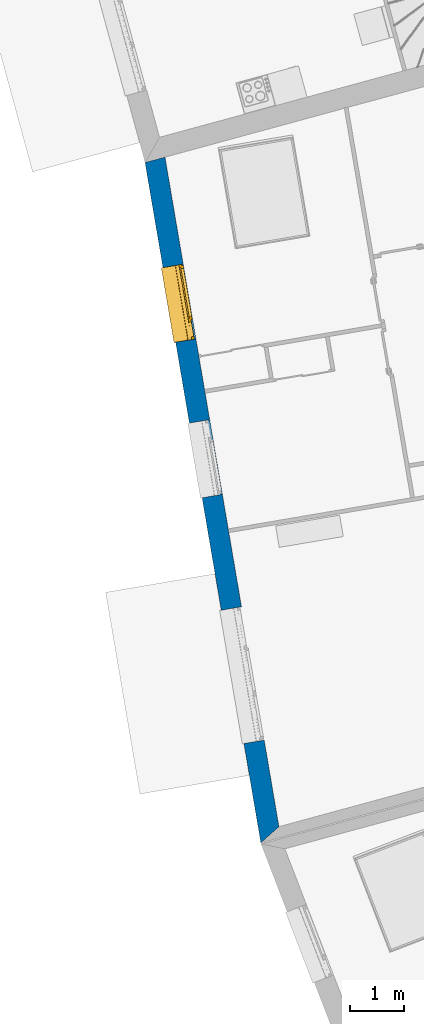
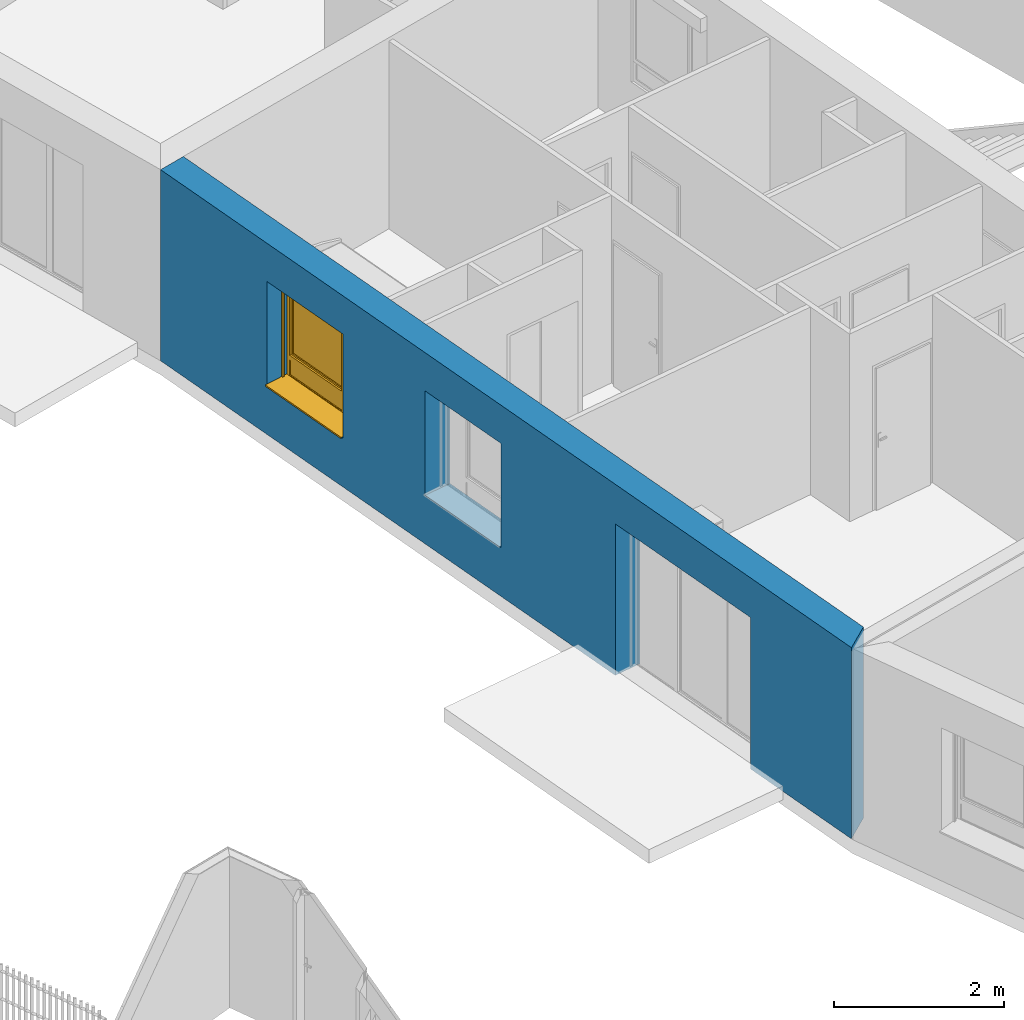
# One storey, part 85 of 195: 1 wall, 1 window, 3 openings.
"""IFC2X3 building model written with IfcOpenShell, lengths in metres."""

from ifc_helpers import new_model, entity, si_unit, converted_unit, derived_unit, money_unit, direction, frame, origin_with_axes, place, context, subcontext, project, spatial, polyline, outline, extrude, open_shell, faceted_brep, surface_model, source, transform, mapped, material, layer, layer_set, layer_usage, type_object, element, fill, save


model = new_model("IFC2X3")

# Units and contexts
model_context = context("Model", 3, precision=1e-05, world=origin_with_axes(), true_north=direction((0.0, 1.0)))
body_context = subcontext(model_context, "Body", "Model", "MODEL_VIEW")
ifc_project = project(units=[si_unit("LENGTHUNIT", "METRE"), si_unit("AREAUNIT", "SQUARE_METRE"), si_unit("VOLUMEUNIT", "CUBIC_METRE"), converted_unit("PLANEANGLEUNIT", "DEGREE", entity("IfcPlaneAngleMeasure", 0.0174532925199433), si_unit("PLANEANGLEUNIT", "RADIAN"), dimensions=[0, 0, 0, 0, 0, 0, 0]), money_unit("CHF"), converted_unit("TIMEUNIT", "Year", entity("IfcTimeMeasure", 31557600.0), si_unit("TIMEUNIT", "SECOND"), dimensions=[0, 0, 1, 0, 0, 0, 0]), si_unit("MASSUNIT", "GRAM", prefix="KILO"), si_unit("THERMODYNAMICTEMPERATUREUNIT", "DEGREE_CELSIUS"), si_unit("LUMINOUSINTENSITYUNIT", "LUMEN"), si_unit("ENERGYUNIT", "JOULE", prefix="MEGA"), derived_unit("THERMALCONDUCTANCEUNIT", [(si_unit("POWERUNIT", "WATT"), 1), (si_unit("LENGTHUNIT", "METRE"), -1), (si_unit("THERMODYNAMICTEMPERATUREUNIT", "KELVIN"), -1)]), derived_unit("SPECIFICHEATCAPACITYUNIT", [(si_unit("ENERGYUNIT", "JOULE"), 1), (si_unit("MASSUNIT", "GRAM", prefix="KILO"), -1), (si_unit("THERMODYNAMICTEMPERATUREUNIT", "KELVIN"), -1)]), derived_unit("MASSDENSITYUNIT", [(si_unit("MASSUNIT", "GRAM", prefix="KILO"), 1), (si_unit("VOLUMEUNIT", "CUBIC_METRE"), -1)])], contexts=[model_context])

# Site, building, storey
site_placement = place(None, origin_with_axes())
site = spatial("IfcSite", under=ifc_project, at=site_placement, Name="Site", CompositionType="ELEMENT")
building_placement = place(site_placement, origin_with_axes())
building = spatial("IfcBuilding", under=site, at=building_placement, Name="Bâtiment", CompositionType="ELEMENT")
storey_placement = place(building_placement, origin_with_axes())
storey = spatial("IfcBuildingStorey", under=building, at=storey_placement, Name="rdc", CompositionType="ELEMENT", Elevation=0.0)

# Wall, openings, window
ifc_material_1 = material(Name="Parpaing 312445824")
ifc_layer_1 = layer(ifc_material_1, 0.22, ventilated="UNKNOWN")
ifc_material_2 = material(Name="Isolant styromousse 301821074")
ifc_layer_2 = layer(ifc_material_2, 0.16, ventilated="UNKNOWN")
ifc_layer_set = layer_set([ifc_layer_1, ifc_layer_2], Name="isol int 22+16 0836643197")
ifc_layer_usage = layer_usage(ifc_layer_set, "AXIS2", "POSITIVE", 0.0)
wall_type = type_object("IfcWallType", Name="isol int 22+16 0836643197 380", PredefinedType="NOTDEFINED")
wall_placement = place(storey_placement, frame((9579.83220776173, -1023.042735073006, 57.7), z_axis=(0.0, 0.0, 1.0), x_axis=(0.1677527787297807, -0.985829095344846, 0.0)))
wall = element("IfcWallStandardCase", 1, at=wall_placement, inside=storey, type_object=wall_type, material=ifc_layer_usage, Name="Mur-113", context=body_context, shape_type="SweptSolid", body=[
    extrude(outline(polyline([(0.0, 0.0), (12.75935139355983, 0.0), (12.52130775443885, 0.3799999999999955), (-0.03709306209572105, 0.3799999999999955), (0.0, 0.0)])), origin_with_axes(), (0.0, 0.0, 1.0), 2.75),
])
opening_1_placement = place(wall_placement, frame((2.669998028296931, 0.0, 0.7000000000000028), z_axis=(0.0, 0.0, 1.0), x_axis=(1.0, 0.0, 0.0)))
opening_1 = element("IfcOpeningElement", 2, at=opening_1_placement, cuts=wall, Name="Fen-045", context=body_context, shape_type="Brep", body=[
    faceted_brep([(-0.6999999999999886, 0.4799999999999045, 1.5), (0.6999999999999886, 0.4799999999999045, 1.5), (0.700000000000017, 2.491085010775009, 1.5), (-0.6999999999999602, 2.491085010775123, 1.5), (-0.6999999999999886, 0.4799999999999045, 1.700000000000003), (0.6999999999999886, 0.4799999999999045, 1.700000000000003), (0.6999999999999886, 0.2999999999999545, 1.5), (0.700000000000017, 0.2999999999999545, 0.0), (0.700000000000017, 2.491085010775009, 0.0), (-0.6999999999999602, 2.491085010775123, 0.0), (-0.6999999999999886, 0.3000000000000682, 1.5), (-0.6999999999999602, 0.3000000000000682, 0.0), (-0.700000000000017, 0.2199999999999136, 1.5), (-0.700000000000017, 0.2199999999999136, 1.700000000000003), (0.6999999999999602, 0.2199999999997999, 1.700000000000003), (0.6999999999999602, 0.2199999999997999, 1.5), (0.6999999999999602, -2.111085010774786, 1.5), (0.6999999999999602, -2.111085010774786, 0.0), (-0.700000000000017, -2.111085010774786, 0.0), (-0.700000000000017, -2.111085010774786, 1.5)], [[[0, 1, 2, 3]], [[1, 0, 4, 5]], [[1, 6, 7, 8, 2]], [[2, 8, 9, 3]], [[10, 0, 3, 9, 11]], [[0, 10, 12, 13, 4]], [[14, 5, 4, 13]], [[6, 1, 5, 14, 15]], [[6, 15, 16, 17, 7]], [[7, 11, 9, 8]], [[12, 10, 11, 18, 19]], [[12, 15, 14, 13]], [[15, 12, 19, 16]], [[19, 18, 17, 16]], [[11, 7, 17, 18]]]),
])
opening_2_placement = place(wall_placement, frame((5.5873425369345, 0.0, 0.7000000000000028), z_axis=(0.0, 0.0, 1.0), x_axis=(1.0, 0.0, 0.0)))
element("IfcOpeningElement", 3, at=opening_2_placement, cuts=wall, Name="Fen-045", context=body_context, shape_type="Brep", body=[
    faceted_brep([(-0.6999999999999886, 0.4800000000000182, 1.5), (0.6999999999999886, 0.4800000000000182, 1.5), (0.6999999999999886, 2.491085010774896, 1.5), (-0.700000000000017, 2.491085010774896, 1.5), (-0.6999999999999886, 0.4800000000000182, 1.700000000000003), (0.6999999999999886, 0.4800000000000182, 1.700000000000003), (0.6999999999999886, 0.2999999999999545, 1.5), (0.6999999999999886, 0.2999999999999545, 0.0), (0.6999999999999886, 2.491085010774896, 0.0), (-0.700000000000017, 2.491085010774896, 0.0), (-0.6999999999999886, 0.3000000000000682, 1.5), (-0.6999999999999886, 0.3000000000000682, 0.0), (-0.6999999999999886, 0.2200000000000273, 1.5), (-0.6999999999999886, 0.2200000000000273, 1.700000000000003), (0.6999999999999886, 0.2199999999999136, 1.700000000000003), (0.6999999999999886, 0.2199999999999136, 1.5), (0.6999999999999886, -2.111085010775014, 1.5), (0.6999999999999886, -2.111085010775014, 0.0), (-0.7000000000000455, -2.1110850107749, 0.0), (-0.7000000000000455, -2.1110850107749, 1.5)], [[[0, 1, 2, 3]], [[1, 0, 4, 5]], [[1, 6, 7, 8, 2]], [[2, 8, 9, 3]], [[10, 0, 3, 9, 11]], [[0, 10, 12, 13, 4]], [[4, 13, 14, 5]], [[6, 1, 5, 14, 15]], [[6, 15, 16, 17, 7]], [[7, 11, 9, 8]], [[12, 10, 11, 18, 19]], [[12, 15, 14, 13]], [[15, 12, 19, 16]], [[19, 18, 17, 16]], [[11, 7, 17, 18]]]),
])
opening_3_placement = place(wall_placement, frame((9.646856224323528, 0.0, 0.0), z_axis=(0.0, 0.0, 1.0), x_axis=(1.0, 0.0, 0.0)))
element("IfcOpeningElement", 4, at=opening_3_placement, cuts=wall, Name="Fen-045", context=body_context, shape_type="Brep", body=[
    faceted_brep([(-1.25, 0.4799999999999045, 2.18), (1.250000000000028, 0.4799999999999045, 2.18), (1.250000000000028, 2.491085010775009, 2.18), (-1.25, 2.491085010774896, 2.18), (-1.25, 0.4799999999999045, 2.380000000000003), (1.250000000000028, 0.4799999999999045, 2.380000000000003), (1.25, 0.3000000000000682, 2.18), (1.25, 0.3000000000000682, 0.0), (1.250000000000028, 2.491085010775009, 0.0), (-1.25, 2.491085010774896, 0.0), (-1.249999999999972, 0.2999999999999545, 2.18), (-1.249999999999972, 0.2999999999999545, 0.0), (-1.25, 0.2199999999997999, 2.18), (-1.25, 0.2199999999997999, 2.380000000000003), (1.25, 0.2199999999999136, 2.380000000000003), (1.25, 0.2199999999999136, 2.18), (1.25, -2.111085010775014, 2.18), (1.25, -2.111085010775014, 0.0), (-1.249999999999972, -2.111085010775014, 0.0), (-1.249999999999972, -2.111085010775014, 2.18)], [[[0, 1, 2, 3]], [[1, 0, 4, 5]], [[1, 6, 7, 8, 2]], [[2, 8, 9, 3]], [[10, 0, 3, 9, 11]], [[0, 10, 12, 13, 4]], [[4, 13, 14, 5]], [[6, 1, 5, 14, 15]], [[6, 15, 16, 17, 7]], [[7, 11, 9, 8]], [[12, 10, 11, 18, 19]], [[12, 15, 14, 13]], [[15, 12, 19, 16]], [[19, 18, 17, 16]], [[11, 7, 17, 18]]]),
])
window_style = type_object("IfcWindowStyle", Name="Fenêtre variable 27", ConstructionType="NOTDEFINED", OperationType="TRIPLE_PANEL_RIGHT", ParameterTakesPrecedence=False, Sizeable=False)
shared_shape = source(origin_with_axes(), body_context, "Body", "SurfaceModel", [
    surface_model("IfcShellBasedSurfaceModel", [(-0.7, -0.05100000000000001, 0.05), (-0.7, -0.05100000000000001, 0.04), (0.7, -0.05100000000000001, 0.04000000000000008), (0.7, -0.05100000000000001, 0.05000000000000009), (-0.7, -0.3799999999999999, 0.02899999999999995), (0.7, -0.3799999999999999, 0.02900000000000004), (-0.7, -0.3799999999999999, 0.008999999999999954), (0.7, -0.3799999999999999, 0.00900000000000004), (-0.7, -0.3699999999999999, 0.01899999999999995), (0.7, -0.3699999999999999, 0.01900000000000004)], [open_shell([[[0, 1, 2, 3]], [[1, 4, 5, 2]], [[4, 6, 7, 5]], [[6, 8, 9, 7]]])]),
    faceted_brep([(-0.7, -0.13, 1.7), (-0.697, -0.13, 1.7), (-0.697, 0.13, 1.7), (-0.7, 0.13, 1.7), (-0.7, -0.13, 1.5), (-0.697, -0.13, 1.5), (-0.697, 0.13, 1.5), (-0.7, 0.13, 1.5)], [[[0, 1, 2, 3]], [[4, 5, 1, 0]], [[1, 5, 6, 2]], [[3, 2, 6, 7]], [[0, 3, 7, 4]], [[7, 6, 5, 4]]]),
    faceted_brep([(0.6970000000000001, -0.1299999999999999, 1.7), (0.7000000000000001, -0.1299999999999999, 1.7), (0.7000000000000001, 0.1300000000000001, 1.7), (0.6970000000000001, 0.1300000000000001, 1.7), (0.6970000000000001, -0.1299999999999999, 1.5), (0.7000000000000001, -0.1299999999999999, 1.5), (0.7000000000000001, 0.1300000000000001, 1.5), (0.6970000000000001, 0.1300000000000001, 1.5)], [[[0, 1, 2, 3]], [[4, 5, 1, 0]], [[1, 5, 6, 2]], [[3, 2, 6, 7]], [[0, 3, 7, 4]], [[7, 6, 5, 4]]]),
    faceted_brep([(-0.697, -0.13, 1.5), (0.697, -0.1299999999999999, 1.5), (0.697, -0.1299999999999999, 1.7), (-0.697, -0.13, 1.7), (-0.697, -0.127, 1.5), (0.697, -0.1269999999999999, 1.5), (0.697, -0.1269999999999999, 1.697), (0.697, 0.1270000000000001, 1.697), (0.697, 0.1270000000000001, 1.503), (0.697, -0.1079999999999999, 1.503), (0.697, -0.1079999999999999, 1.5), (0.697, 0.1300000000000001, 1.5), (0.697, 0.1300000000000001, 1.7), (-0.697, 0.13, 1.7), (-0.697, 0.13, 1.5), (-0.697, -0.108, 1.5), (-0.697, -0.108, 1.503), (-0.697, 0.127, 1.503), (-0.697, 0.127, 1.697), (-0.697, -0.127, 1.697)], [[[0, 1, 2, 3]], [[4, 5, 1, 0]], [[1, 5, 6, 7, 8, 9, 10, 11, 12, 2]], [[3, 2, 12, 13]], [[0, 3, 13, 14, 15, 16, 17, 18, 19, 4]], [[19, 6, 5, 4]], [[18, 7, 6, 19]], [[17, 8, 7, 18]], [[16, 9, 8, 17]], [[15, 10, 9, 16]], [[14, 11, 10, 15]], [[13, 12, 11, 14]]]),
    faceted_brep([(-0.694, -0.08075423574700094, 1.585760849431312), (-0.694, -0.08200000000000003, 1.6), (-0.694, -0.0807542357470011, 1.614239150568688), (-0.694, -0.07705479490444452, 1.628045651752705), (-0.694, -0.07101408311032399, 1.641), (-0.694, -0.06281564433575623, 1.652708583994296), (-0.694, -0.05270858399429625, 1.662815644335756), (-0.694, -0.04100000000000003, 1.671014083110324), (-0.694, -0.02804565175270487, 1.677054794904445), (-0.694, -0.01423915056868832, 1.680754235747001), (-0.694, 0.0, 1.682), (-0.694, 0.01423915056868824, 1.680754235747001), (-0.694, 0.02804565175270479, 1.677054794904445), (-0.694, 0.04099999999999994, 1.671014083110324), (-0.694, 0.05270858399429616, 1.662815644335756), (-0.694, 0.06281564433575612, 1.652708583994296), (-0.694, 0.07101408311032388, 1.641), (-0.694, 0.0770547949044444, 1.628045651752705), (-0.694, 0.08075423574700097, 1.614239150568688), (-0.694, 0.0819999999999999, 1.6), (-0.694, 0.08075423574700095, 1.585760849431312), (-0.694, 0.07705479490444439, 1.571954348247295), (-0.694, 0.07101408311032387, 1.559), (-0.694, 0.06281564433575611, 1.547291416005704), (-0.694, 0.05270858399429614, 1.537184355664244), (-0.694, 0.04099999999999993, 1.528985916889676), (-0.694, 0.02804565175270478, 1.522945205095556), (-0.694, 0.01423915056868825, 1.519245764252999), (-0.694, 0.0, 1.518), (-0.694, -0.01423915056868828, 1.519245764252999), (-0.694, -0.02804565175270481, 1.522945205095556), (-0.694, -0.04099999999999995, 1.528985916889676), (-0.694, -0.05270858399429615, 1.537184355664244), (-0.694, -0.06281564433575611, 1.547291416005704), (-0.694, -0.07101408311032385, 1.559), (-0.694, -0.07705479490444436, 1.571954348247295), (0.694, -0.08075423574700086, 1.585760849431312), (0.694, -0.08199999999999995, 1.6), (0.694, -0.08075423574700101, 1.614239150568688), (0.694, -0.07705479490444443, 1.628045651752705), (0.694, -0.07101408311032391, 1.641), (0.694, -0.06281564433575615, 1.652708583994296), (0.694, -0.05270858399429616, 1.662815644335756), (0.694, -0.04099999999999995, 1.671014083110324), (0.694, -0.02804565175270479, 1.677054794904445), (0.694, -0.01423915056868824, 1.680754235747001), (0.694, 0.0, 1.682), (0.694, 0.01423915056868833, 1.680754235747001), (0.694, 0.02804565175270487, 1.677054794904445), (0.694, 0.04100000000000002, 1.671014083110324), (0.694, 0.05270858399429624, 1.662815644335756), (0.694, 0.0628156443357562, 1.652708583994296), (0.694, 0.07101408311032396, 1.641), (0.694, 0.07705479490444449, 1.628045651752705), (0.694, 0.08075423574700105, 1.614239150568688), (0.694, 0.08199999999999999, 1.6), (0.694, 0.08075423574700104, 1.585760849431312), (0.694, 0.07705479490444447, 1.571954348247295), (0.694, 0.07101408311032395, 1.559), (0.694, 0.06281564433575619, 1.547291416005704), (0.694, 0.05270858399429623, 1.537184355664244), (0.694, 0.04100000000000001, 1.528985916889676), (0.694, 0.02804565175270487, 1.522945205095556), (0.694, 0.01423915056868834, 1.519245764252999), (0.694, 0.0, 1.518), (0.694, -0.0142391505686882, 1.519245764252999), (0.694, -0.02804565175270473, 1.522945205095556), (0.694, -0.04099999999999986, 1.528985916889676), (0.694, -0.05270858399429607, 1.537184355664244), (0.694, -0.06281564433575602, 1.547291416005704), (0.694, -0.07101408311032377, 1.559), (0.694, -0.07705479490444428, 1.571954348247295)], [[[0, 1, 2, 3, 4, 5, 6, 7, 8, 9, 10, 11, 12, 13, 14, 15, 16, 17, 18, 19, 20, 21, 22, 23, 24, 25, 26, 27, 28, 29, 30, 31, 32, 33, 34, 35]], [[0, 36, 37, 1]], [[1, 37, 38, 2]], [[2, 38, 39, 3]], [[3, 39, 40, 4]], [[4, 40, 41, 5]], [[5, 41, 42, 6]], [[6, 42, 43, 7]], [[7, 43, 44, 8]], [[8, 44, 45, 9]], [[9, 45, 46, 10]], [[10, 46, 47, 11]], [[11, 47, 48, 12]], [[12, 48, 49, 13]], [[13, 49, 50, 14]], [[14, 50, 51, 15]], [[15, 51, 52, 16]], [[16, 52, 53, 17]], [[17, 53, 54, 18]], [[18, 54, 55, 19]], [[19, 55, 56, 20]], [[20, 56, 57, 21]], [[21, 57, 58, 22]], [[22, 58, 59, 23]], [[23, 59, 60, 24]], [[24, 60, 61, 25]], [[25, 61, 62, 26]], [[26, 62, 63, 27]], [[27, 63, 64, 28]], [[28, 64, 65, 29]], [[29, 65, 66, 30]], [[30, 66, 67, 31]], [[31, 67, 68, 32]], [[32, 68, 69, 33]], [[33, 69, 70, 34]], [[34, 70, 71, 35]], [[35, 71, 36, 0]], [[36, 71, 70, 69, 68, 67, 66, 65, 64, 63, 62, 61, 60, 59, 58, 57, 56, 55, 54, 53, 52, 51, 50, 49, 48, 47, 46, 45, 44, 43, 42, 41, 40, 39, 38, 37]]]),
    faceted_brep([(0.7, -0.105, 0.03), (0.7, -0.1049999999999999, 1.5), (0.7, -0.1299999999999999, 1.5), (0.7, -0.13, 0.03), (0.6749999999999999, -0.105, 0.03), (0.6749999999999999, -0.1049999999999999, 1.5), (0.6749999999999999, -0.1079999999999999, 1.5), (0.697, -0.1079999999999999, 1.5), (0.697, -0.1269999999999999, 1.5), (0.6749999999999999, -0.1269999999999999, 1.5), (0.6749999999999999, -0.1299999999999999, 1.5), (0.6749999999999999, -0.13, 0.03), (0.6749999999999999, -0.127, 0.03), (0.697, -0.127, 0.03), (0.697, -0.108, 0.03), (0.6749999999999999, -0.108, 0.03)], [[[0, 1, 2, 3]], [[4, 5, 1, 0]], [[1, 5, 6, 7, 8, 9, 10, 2]], [[3, 2, 10, 11]], [[0, 3, 11, 12, 13, 14, 15, 4]], [[15, 6, 5, 4]], [[14, 7, 6, 15]], [[13, 8, 7, 14]], [[12, 9, 8, 13]], [[11, 10, 9, 12]]]),
    faceted_brep([(-0.7, -0.105, 0.03), (-0.7, -0.13, 0.03), (-0.7, -0.1299999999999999, 1.5), (-0.7, -0.1049999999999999, 1.5), (-0.6749999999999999, -0.105, 0.03), (-0.6749999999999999, -0.108, 0.03), (-0.697, -0.108, 0.03), (-0.697, -0.127, 0.03), (-0.6749999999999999, -0.127, 0.03), (-0.6749999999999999, -0.13, 0.03), (-0.6749999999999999, -0.1299999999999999, 1.5), (-0.6749999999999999, -0.1269999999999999, 1.5), (-0.697, -0.1269999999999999, 1.5), (-0.697, -0.1079999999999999, 1.5), (-0.6749999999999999, -0.1079999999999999, 1.5), (-0.6749999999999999, -0.1049999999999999, 1.5)], [[[0, 1, 2, 3]], [[0, 4, 5, 6, 7, 8, 9, 1]], [[1, 9, 10, 2]], [[3, 2, 10, 11, 12, 13, 14, 15]], [[4, 0, 3, 15]], [[5, 4, 15, 14]], [[6, 5, 14, 13]], [[7, 6, 13, 12]], [[8, 7, 12, 11]], [[9, 8, 11, 10]]]),
    surface_model("IfcShellBasedSurfaceModel", [(-0.697, -0.115, 1.6), (0.697, -0.1149999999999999, 1.6), (0.697, -0.1199999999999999, 1.6), (-0.697, -0.12, 1.6), (-0.697, -0.115, 1.6), (-0.697, -0.12, 1.6), (0.697, -0.12, 1.6), (0.697, -0.1149999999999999, 1.6)], [open_shell([[[0, 1, 2, 3]], [[4, 5, 6, 7]]])]),
    faceted_brep([(-0.697, -0.115, 1.6), (0.697, -0.1149999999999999, 1.6), (0.697, -0.1166666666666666, 1.583333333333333), (-0.697, -0.1166666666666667, 1.583333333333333), (-0.697, -0.12, 1.6), (0.697, -0.1199999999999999, 1.6), (0.697, -0.1216666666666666, 1.583333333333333), (0.697, -0.1216666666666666, 1.566666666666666), (0.697, -0.1199999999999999, 1.55), (0.697, -0.1149999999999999, 1.55), (0.697, -0.1166666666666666, 1.566666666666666), (-0.697, -0.1166666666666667, 1.566666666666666), (-0.697, -0.115, 1.55), (-0.697, -0.12, 1.55), (-0.697, -0.1216666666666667, 1.566666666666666), (-0.697, -0.1216666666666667, 1.583333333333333)], [[[0, 1, 2, 3]], [[4, 5, 1, 0]], [[1, 5, 6, 7, 8, 9, 10, 2]], [[3, 2, 10, 11]], [[0, 3, 11, 12, 13, 14, 15, 4]], [[15, 6, 5, 4]], [[14, 7, 6, 15]], [[13, 8, 7, 14]], [[12, 9, 8, 13]], [[11, 10, 9, 12]]]),
    faceted_brep([(-0.697, -0.115, 1.55), (0.697, -0.1149999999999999, 1.55), (0.697, -0.1166666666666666, 1.533333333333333), (-0.697, -0.1166666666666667, 1.533333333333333), (-0.697, -0.12, 1.55), (0.697, -0.1199999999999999, 1.55), (0.697, -0.1216666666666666, 1.533333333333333), (0.697, -0.1216666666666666, 1.516666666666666), (0.697, -0.1199999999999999, 1.5), (0.697, -0.1149999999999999, 1.5), (0.697, -0.1166666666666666, 1.516666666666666), (-0.697, -0.1166666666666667, 1.516666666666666), (-0.697, -0.115, 1.5), (-0.697, -0.12, 1.5), (-0.697, -0.1216666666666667, 1.516666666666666), (-0.697, -0.1216666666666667, 1.533333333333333)], [[[0, 1, 2, 3]], [[4, 5, 1, 0]], [[1, 5, 6, 7, 8, 9, 10, 2]], [[3, 2, 10, 11]], [[0, 3, 11, 12, 13, 14, 15, 4]], [[15, 6, 5, 4]], [[14, 7, 6, 15]], [[13, 8, 7, 14]], [[12, 9, 8, 13]], [[11, 10, 9, 12]]]),
    faceted_brep([(-0.6749999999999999, 0.0, 1.45), (-0.7, 0.0, 1.45), (-0.7, -0.05000000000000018, 1.45), (-0.6499999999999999, -0.05000000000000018, 1.45), (-0.6499999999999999, -0.02500000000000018, 1.45), (-0.6749999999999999, -0.02500000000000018, 1.45), (-0.6749999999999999, 0.0, 0.3099999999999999), (-0.6499999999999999, 0.0, 0.3099999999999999), (-0.6499999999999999, 0.0, 0.265), (-0.6499999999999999, 0.0, 0.05000000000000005), (-0.7, 0.0, 0.05000000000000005), (-0.7, -0.05000000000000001, 0.05000000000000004), (-0.6499999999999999, -0.05000000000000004, 0.335), (-0.6499999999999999, -0.05000000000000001, 0.05000000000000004), (-0.6499999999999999, -0.05000000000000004, 0.265), (-0.6499999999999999, -0.02500000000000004, 0.335), (-0.6499999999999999, -0.02500000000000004, 0.3099999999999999), (-0.6749999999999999, -0.02500000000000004, 0.3099999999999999)], [[[0, 1, 2, 3, 4, 5]], [[6, 7, 8, 9, 10, 1, 0]], [[1, 10, 11, 2]], [[12, 3, 2, 11, 13, 14]], [[4, 3, 12, 15]], [[15, 16, 17, 5, 4]], [[5, 17, 6, 0]], [[6, 17, 16, 7]], [[16, 15, 12, 14, 8, 7]], [[9, 8, 14, 13]], [[10, 9, 13, 11]]]),
    faceted_brep([(0.3068894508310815, -0.02500000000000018, 1.45), (0.3068894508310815, -0.05000000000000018, 1.45), (0.3768894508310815, -0.05000000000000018, 1.45), (0.3768894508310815, 0.0, 1.45), (0.3318894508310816, 0.0, 1.45), (0.3318894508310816, -0.02500000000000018, 1.45), (0.3068894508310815, -0.02500000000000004, 0.335), (0.3068894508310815, -0.05000000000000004, 0.335), (0.3068894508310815, -0.05000000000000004, 0.265), (0.3068894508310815, -0.05000000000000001, 0.05000000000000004), (0.3768894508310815, -0.05000000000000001, 0.05000000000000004), (0.3768894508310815, 0.0, 0.05000000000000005), (0.3318894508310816, 0.0, 0.3099999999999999), (0.3068894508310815, 0.0, 0.05000000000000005), (0.3068894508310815, 0.0, 0.265), (0.3068894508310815, 0.0, 0.3099999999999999), (0.3318894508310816, -0.02500000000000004, 0.3099999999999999), (0.3068894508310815, -0.02500000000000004, 0.3099999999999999)], [[[0, 1, 2, 3, 4, 5]], [[6, 7, 1, 0]], [[8, 9, 10, 2, 1, 7]], [[11, 3, 2, 10]], [[12, 4, 3, 11, 13, 14, 15]], [[12, 16, 5, 4]], [[5, 16, 17, 6, 0]], [[17, 15, 14, 8, 7, 6]], [[14, 13, 9, 8]], [[13, 11, 10, 9]], [[15, 17, 16, 12]]]),
    faceted_brep([(-0.6499999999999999, -0.02500000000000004, 0.335), (-0.6499999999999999, -0.05000000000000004, 0.335), (0.3068894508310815, -0.05000000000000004, 0.335), (0.3068894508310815, -0.02500000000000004, 0.335), (-0.6499999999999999, -0.02500000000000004, 0.3099999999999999), (-0.6499999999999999, 0.0, 0.3099999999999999), (-0.6499999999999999, 0.0, 0.265), (-0.6499999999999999, -0.05000000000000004, 0.265), (0.3068894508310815, -0.05000000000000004, 0.265), (0.3068894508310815, -0.02500000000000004, 0.3099999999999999), (0.3068894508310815, 0.0, 0.265), (0.3068894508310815, 0.0, 0.3099999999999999)], [[[0, 1, 2, 3]], [[4, 5, 6, 7, 1, 0]], [[2, 1, 7, 8]], [[9, 3, 2, 8, 10, 11]], [[9, 4, 0, 3]], [[5, 4, 9, 11]], [[11, 10, 6, 5]], [[6, 10, 8, 7]]]),
    faceted_brep([(-0.6749999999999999, 0.0, 1.45), (-0.7, 0.0, 1.45), (-0.7, 0.0, 1.5), (0.7, 0.0, 1.5), (0.7, 0.0, 1.45), (0.6499999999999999, 0.0, 1.45), (0.3768894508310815, 0.0, 1.45), (0.3318894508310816, 0.0, 1.45), (0.3318894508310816, 0.0, 1.475), (-0.6749999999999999, 0.0, 1.475), (-0.6749999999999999, -0.02500000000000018, 1.45), (-0.6499999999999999, -0.02500000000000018, 1.45), (-0.6499999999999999, -0.05000000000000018, 1.45), (-0.7, -0.05000000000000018, 1.45), (-0.7, -0.05000000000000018, 1.5), (0.7, -0.05000000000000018, 1.5), (0.7, -0.05000000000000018, 1.45), (0.6499999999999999, -0.05000000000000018, 1.45), (0.3768894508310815, -0.05000000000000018, 1.45), (0.3318894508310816, -0.02500000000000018, 1.45), (0.3068894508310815, -0.05000000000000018, 1.45), (0.3068894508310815, -0.02500000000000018, 1.45), (0.3318894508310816, -0.02500000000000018, 1.475), (-0.6749999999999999, -0.02500000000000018, 1.475)], [[[0, 1, 2, 3, 4, 5, 6, 7, 8, 9]], [[10, 11, 12, 13, 1, 0]], [[2, 1, 13, 14]], [[3, 2, 14, 15]], [[4, 3, 15, 16]], [[5, 4, 16, 17]], [[6, 5, 17, 18]], [[19, 7, 6, 18, 20, 21]], [[7, 19, 22, 8]], [[8, 22, 23, 9]], [[9, 23, 10, 0]], [[21, 11, 10, 23, 22, 19]], [[21, 20, 12, 11]], [[18, 17, 16, 15, 14, 13, 12, 20]]]),
    faceted_brep([(0.6499999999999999, -0.05000000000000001, 0.05), (0.6499999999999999, 0.0, 0.05000000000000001), (0.7, 0.0, 0.05000000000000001), (0.7, -0.05000000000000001, 0.05), (0.6499999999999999, -0.05000000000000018, 1.45), (0.6499999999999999, 0.0, 1.45), (0.7, 0.0, 1.45), (0.7, -0.05000000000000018, 1.45)], [[[0, 1, 2, 3]], [[4, 5, 1, 0]], [[1, 5, 6, 2]], [[3, 2, 6, 7]], [[0, 3, 7, 4]], [[7, 6, 5, 4]]]),
    faceted_brep([(-0.6499999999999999, -0.05000000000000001, 0.05), (-0.6499999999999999, 0.0, 0.05000000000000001), (-0.7, 0.0, 0.05000000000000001), (-0.7, -0.05000000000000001, 0.05), (0.3068894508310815, -0.05000000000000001, 0.05), (0.3068894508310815, 0.0, 0.05000000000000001), (0.3768894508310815, 0.0, 0.05000000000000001), (0.6499999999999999, 0.0, 0.05000000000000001), (0.7, 0.0, 0.05000000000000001), (0.7, 0.0, 0.0), (-0.7, 0.0, 0.0), (-0.7, -0.05, 0.0), (0.7, -0.05, 0.0), (0.7, -0.05000000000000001, 0.05), (0.6499999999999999, -0.05000000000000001, 0.05), (0.3768894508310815, -0.05000000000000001, 0.05)], [[[0, 1, 2, 3]], [[4, 5, 1, 0]], [[1, 5, 6, 7, 8, 9, 10, 2]], [[3, 2, 10, 11]], [[0, 3, 11, 12, 13, 14, 15, 4]], [[15, 6, 5, 4]], [[14, 7, 6, 15]], [[13, 8, 7, 14]], [[12, 9, 8, 13]], [[11, 10, 9, 12]]]),
    faceted_brep([(-0.625, -0.02500000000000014, 1.425), (-0.625, 0.02499999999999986, 1.425), (-0.6749999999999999, 0.02499999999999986, 1.425), (-0.6749999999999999, -0.02500000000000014, 1.425), (-0.625, -0.02500000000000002, 0.3599999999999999), (-0.625, 0.02499999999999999, 0.3599999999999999), (-0.6749999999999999, 0.02499999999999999, 0.3599999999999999), (-0.6749999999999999, -0.02500000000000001, 0.3599999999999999)], [[[0, 1, 2, 3]], [[4, 5, 1, 0]], [[1, 5, 6, 2]], [[3, 2, 6, 7]], [[0, 3, 7, 4]], [[7, 6, 5, 4]]]),
    faceted_brep([(0.2818894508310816, -0.02500000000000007, 0.3599999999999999), (0.2818894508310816, 0.02499999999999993, 0.3599999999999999), (0.3318894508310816, 0.02499999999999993, 0.3599999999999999), (0.3318894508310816, -0.02500000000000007, 0.3599999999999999), (0.2818894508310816, -0.0250000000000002, 1.425), (0.2818894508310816, 0.0249999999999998, 1.425), (0.3318894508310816, 0.0249999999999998, 1.425), (0.3318894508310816, -0.0250000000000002, 1.425)], [[[0, 1, 2, 3]], [[4, 5, 1, 0]], [[1, 5, 6, 2]], [[3, 2, 6, 7]], [[0, 3, 7, 4]], [[7, 6, 5, 4]]]),
    faceted_brep([(0.3318894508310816, -0.02500000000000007, 0.3099999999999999), (0.3318894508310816, 0.02499999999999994, 0.3099999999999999), (0.3318894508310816, 0.02499999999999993, 0.3599999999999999), (0.3318894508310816, -0.02500000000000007, 0.3599999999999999), (-0.6749999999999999, -0.025, 0.3099999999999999), (-0.6749999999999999, 0.02499999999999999, 0.3099999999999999), (-0.6749999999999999, 0.02499999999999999, 0.3599999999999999), (-0.625, 0.02499999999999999, 0.3599999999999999), (0.2818894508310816, 0.02499999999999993, 0.3599999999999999), (0.2818894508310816, -0.02500000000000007, 0.3599999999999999), (-0.625, -0.02500000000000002, 0.3599999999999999), (-0.6749999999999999, -0.02500000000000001, 0.3599999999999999)], [[[0, 1, 2, 3]], [[4, 5, 1, 0]], [[1, 5, 6, 7, 8, 2]], [[3, 2, 8, 9]], [[0, 3, 9, 10, 11, 4]], [[11, 6, 5, 4]], [[10, 7, 6, 11]], [[9, 8, 7, 10]]]),
    faceted_brep([(-0.6749999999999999, -0.02500000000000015, 1.475), (-0.6749999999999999, 0.02499999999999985, 1.475), (-0.6749999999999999, 0.02499999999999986, 1.425), (-0.6749999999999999, -0.02500000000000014, 1.425), (0.3318894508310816, -0.02500000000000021, 1.475), (0.3318894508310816, 0.02499999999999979, 1.475), (0.3318894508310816, 0.0249999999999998, 1.425), (0.2818894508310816, 0.0249999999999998, 1.425), (-0.625, 0.02499999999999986, 1.425), (-0.625, -0.02500000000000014, 1.425), (0.2818894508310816, -0.0250000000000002, 1.425), (0.3318894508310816, -0.0250000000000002, 1.425)], [[[0, 1, 2, 3]], [[4, 5, 1, 0]], [[1, 5, 6, 7, 8, 2]], [[3, 2, 8, 9]], [[0, 3, 9, 10, 11, 4]], [[11, 6, 5, 4]], [[10, 7, 6, 11]], [[9, 8, 7, 10]]]),
    surface_model("IfcShellBasedSurfaceModel", [(-0.625, -0.01000000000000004, 0.3599999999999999), (0.2818894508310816, -0.01000000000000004, 0.3599999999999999), (0.2818894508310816, -0.01000000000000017, 1.425), (-0.625, -0.01000000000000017, 1.425)], [open_shell([[[0, 1, 2, 3]]])]),
    surface_model("IfcShellBasedSurfaceModel", [(-0.625, 0.009999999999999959, 0.3599999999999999), (-0.625, 0.00999999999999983, 1.425), (0.2818894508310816, 0.00999999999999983, 1.425), (0.2818894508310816, 0.009999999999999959, 0.3599999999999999)], [open_shell([[[0, 1, 2, 3]]])]),
    surface_model("IfcShellBasedSurfaceModel", [(0.3768894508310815, -0.035, 0.05), (0.65, -0.035, 0.05), (0.65, -0.03500000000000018, 1.45), (0.3768894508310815, -0.03500000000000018, 1.45)], [open_shell([[[0, 1, 2, 3]]])]),
    surface_model("IfcShellBasedSurfaceModel", [(0.3768894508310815, -0.015, 0.05), (0.3768894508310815, -0.01500000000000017, 1.45), (0.65, -0.01500000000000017, 1.45), (0.65, -0.015, 0.05)], [open_shell([[[0, 1, 2, 3]]])]),
    surface_model("IfcShellBasedSurfaceModel", [(-0.6499999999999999, -0.035, 0.05), (0.3068894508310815, -0.035, 0.05), (0.3068894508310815, -0.03500000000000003, 0.265), (-0.6499999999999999, -0.03500000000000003, 0.265)], [open_shell([[[0, 1, 2, 3]]])]),
    surface_model("IfcShellBasedSurfaceModel", [(-0.6499999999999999, -0.015, 0.05), (-0.6499999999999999, -0.01500000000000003, 0.265), (0.3068894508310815, -0.01500000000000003, 0.265), (0.3068894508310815, -0.015, 0.05)], [open_shell([[[0, 1, 2, 3]]])]),
])
window_placement = place(opening_1_placement, frame((-0.6999999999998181, 0.0, 0.0), z_axis=(0.0, 0.0, 1.0), x_axis=(1.0, 0.0, 0.0)))
window = element("IfcWindow", 5, at=window_placement, inside=storey, type_object=window_style, Name="Fen-045", OverallHeight=1.5, OverallWidth=1.4, context=body_context, shape_type="MappedRepresentation", body=[
    mapped(shared_shape, transform((0.7000000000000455, 0.3500000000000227, 0.0))),
])
fill(opening_1, window)

save(model, "model.ifc")
